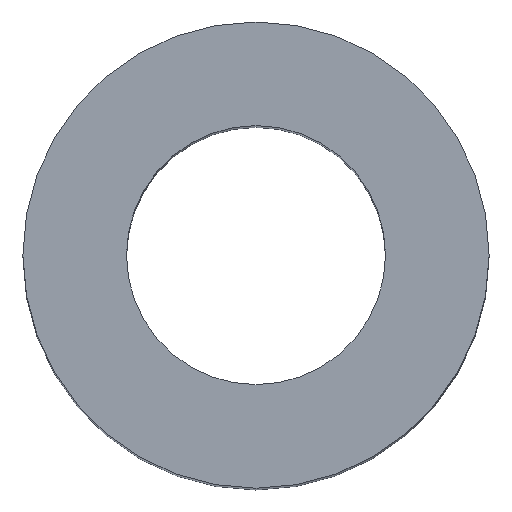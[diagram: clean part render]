
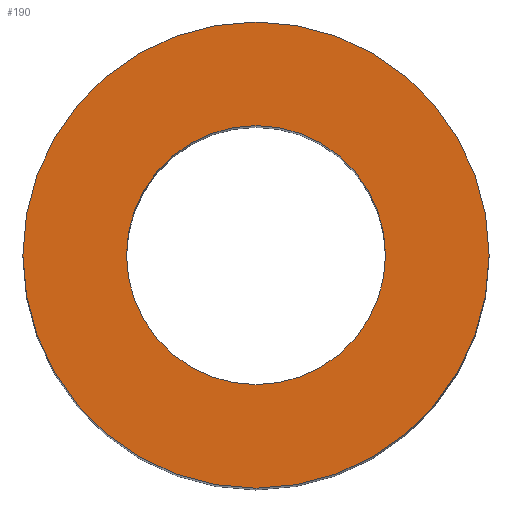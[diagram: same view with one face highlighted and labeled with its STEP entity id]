
A CAD part, top view. The second image highlights one B-rep face of the part: STEP entity #190.
In plain terms, the highlighted planar face has unit normal (0, 0, 1).
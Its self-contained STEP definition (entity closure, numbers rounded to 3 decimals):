
#24 = VERTEX_POINT('',#25);
#25 = CARTESIAN_POINT('',(4.5,0.,20.));
#32 = CYLINDRICAL_SURFACE('',#33,4.5);
#33 = AXIS2_PLACEMENT_3D('',#34,#35,#36);
#34 = CARTESIAN_POINT('',(0.,0.,0.));
#35 = DIRECTION('',(-0.,-0.,-1.));
#36 = DIRECTION('',(1.,0.,0.));
#51 = EDGE_CURVE('',#24,#24,#52,.T.);
#52 = SURFACE_CURVE('',#53,(#58,#65),.PCURVE_S1.);
#53 = CIRCLE('',#54,4.5);
#54 = AXIS2_PLACEMENT_3D('',#55,#56,#57);
#55 = CARTESIAN_POINT('',(0.,0.,20.));
#56 = DIRECTION('',(0.,0.,1.));
#57 = DIRECTION('',(1.,0.,0.));
#58 = PCURVE('',#32,#59);
#59 = DEFINITIONAL_REPRESENTATION('',(#60),#64);
#60 = LINE('',#61,#62);
#61 = CARTESIAN_POINT('',(-0.,-20.));
#62 = VECTOR('',#63,1.);
#63 = DIRECTION('',(-1.,0.));
#64 = ( GEOMETRIC_REPRESENTATION_CONTEXT(2) 
PARAMETRIC_REPRESENTATION_CONTEXT() REPRESENTATION_CONTEXT('2D SPACE',''
  ) );
#65 = PCURVE('',#66,#71);
#66 = PLANE('',#67);
#67 = AXIS2_PLACEMENT_3D('',#68,#69,#70);
#68 = CARTESIAN_POINT('',(0.,0.,20.));
#69 = DIRECTION('',(0.,0.,1.));
#70 = DIRECTION('',(1.,0.,-0.));
#71 = DEFINITIONAL_REPRESENTATION('',(#72),#76);
#72 = CIRCLE('',#73,4.5);
#73 = AXIS2_PLACEMENT_2D('',#74,#75);
#74 = CARTESIAN_POINT('',(0.,0.));
#75 = DIRECTION('',(1.,0.));
#76 = ( GEOMETRIC_REPRESENTATION_CONTEXT(2) 
PARAMETRIC_REPRESENTATION_CONTEXT() REPRESENTATION_CONTEXT('2D SPACE',''
  ) );
#112 = VERTEX_POINT('',#113);
#113 = CARTESIAN_POINT('',(2.5,0.,20.));
#120 = CYLINDRICAL_SURFACE('',#121,2.5);
#121 = AXIS2_PLACEMENT_3D('',#122,#123,#124);
#122 = CARTESIAN_POINT('',(0.,0.,0.));
#123 = DIRECTION('',(-0.,-0.,-1.));
#124 = DIRECTION('',(1.,0.,0.));
#139 = EDGE_CURVE('',#112,#112,#140,.T.);
#140 = SURFACE_CURVE('',#141,(#146,#153),.PCURVE_S1.);
#141 = CIRCLE('',#142,2.5);
#142 = AXIS2_PLACEMENT_3D('',#143,#144,#145);
#143 = CARTESIAN_POINT('',(0.,0.,20.));
#144 = DIRECTION('',(0.,0.,1.));
#145 = DIRECTION('',(1.,0.,0.));
#146 = PCURVE('',#120,#147);
#147 = DEFINITIONAL_REPRESENTATION('',(#148),#152);
#148 = LINE('',#149,#150);
#149 = CARTESIAN_POINT('',(-0.,-20.));
#150 = VECTOR('',#151,1.);
#151 = DIRECTION('',(-1.,0.));
#152 = ( GEOMETRIC_REPRESENTATION_CONTEXT(2) 
PARAMETRIC_REPRESENTATION_CONTEXT() REPRESENTATION_CONTEXT('2D SPACE',''
  ) );
#153 = PCURVE('',#66,#154);
#154 = DEFINITIONAL_REPRESENTATION('',(#155),#159);
#155 = CIRCLE('',#156,2.5);
#156 = AXIS2_PLACEMENT_2D('',#157,#158);
#157 = CARTESIAN_POINT('',(0.,0.));
#158 = DIRECTION('',(1.,0.));
#159 = ( GEOMETRIC_REPRESENTATION_CONTEXT(2) 
PARAMETRIC_REPRESENTATION_CONTEXT() REPRESENTATION_CONTEXT('2D SPACE',''
  ) );
#190 = ADVANCED_FACE('',(#191,#194),#66,.T.);
#191 = FACE_BOUND('',#192,.T.);
#192 = EDGE_LOOP('',(#193));
#193 = ORIENTED_EDGE('',*,*,#51,.T.);
#194 = FACE_BOUND('',#195,.T.);
#195 = EDGE_LOOP('',(#196));
#196 = ORIENTED_EDGE('',*,*,#139,.F.);
